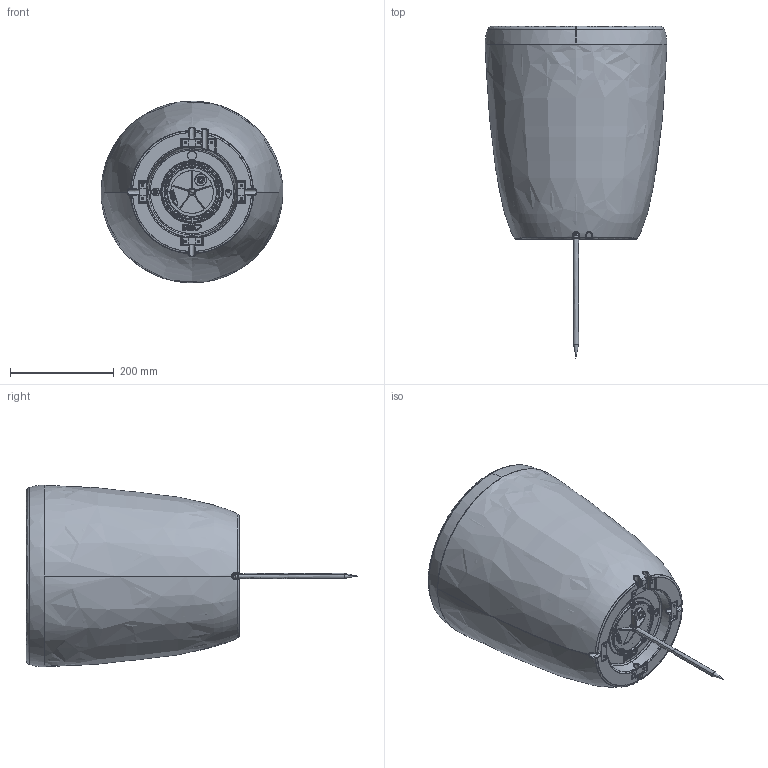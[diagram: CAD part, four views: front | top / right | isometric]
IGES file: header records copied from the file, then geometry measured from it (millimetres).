
Start section: SolidWorks IGES file using analytic representation for surfaces
Global section: file name: E:\....SOLID WORKS\...BORYS\BANKA 2\DONICA\1.12.2016\DONICA 03\doniczka okr¹g³a niska zlozenie.IGS; native system: SolidWorks 2016; preprocessor: SolidWorks 2016; author: DELL; date: 170419.132109; units: millimetre
Bounding box: 350 x 638.49 x 350 mm (x, y, z)
Surface area: 1370053.3 mm2 (no closed solid volume)
Topology: 0 solids, 0 shells, 2797 faces, 28385 edges, 28311 vertices
Faces by surface type: bspline 1969, revolution 828
